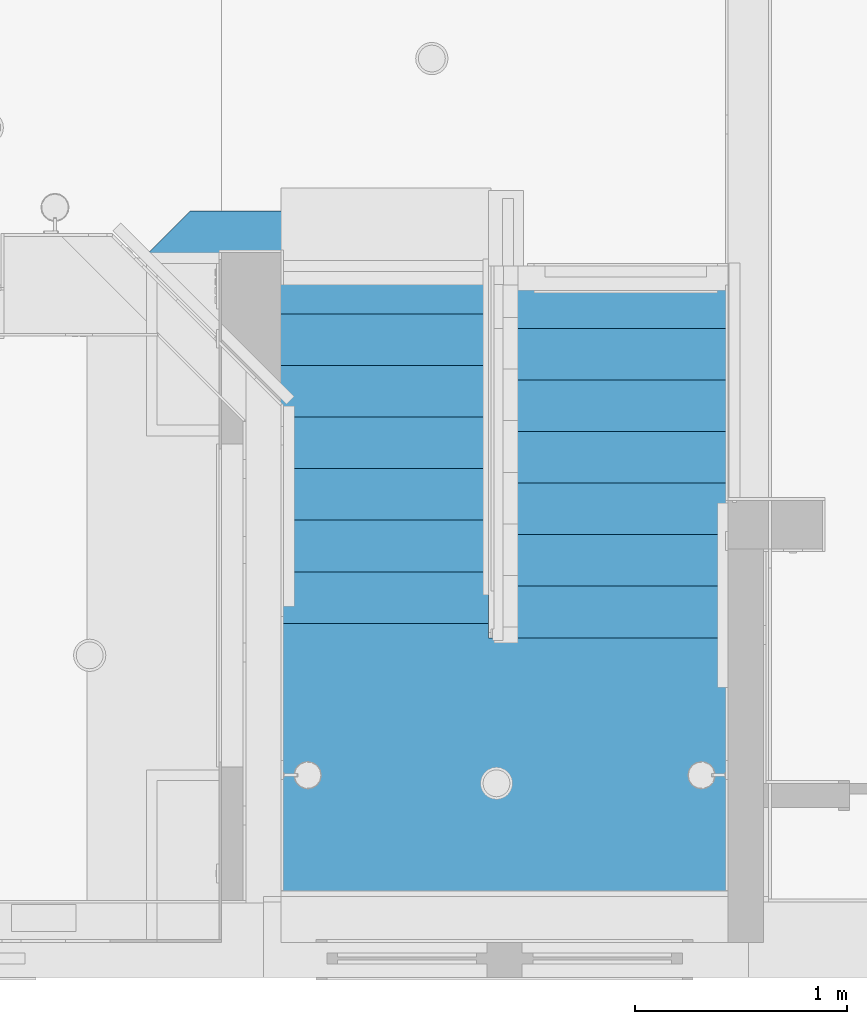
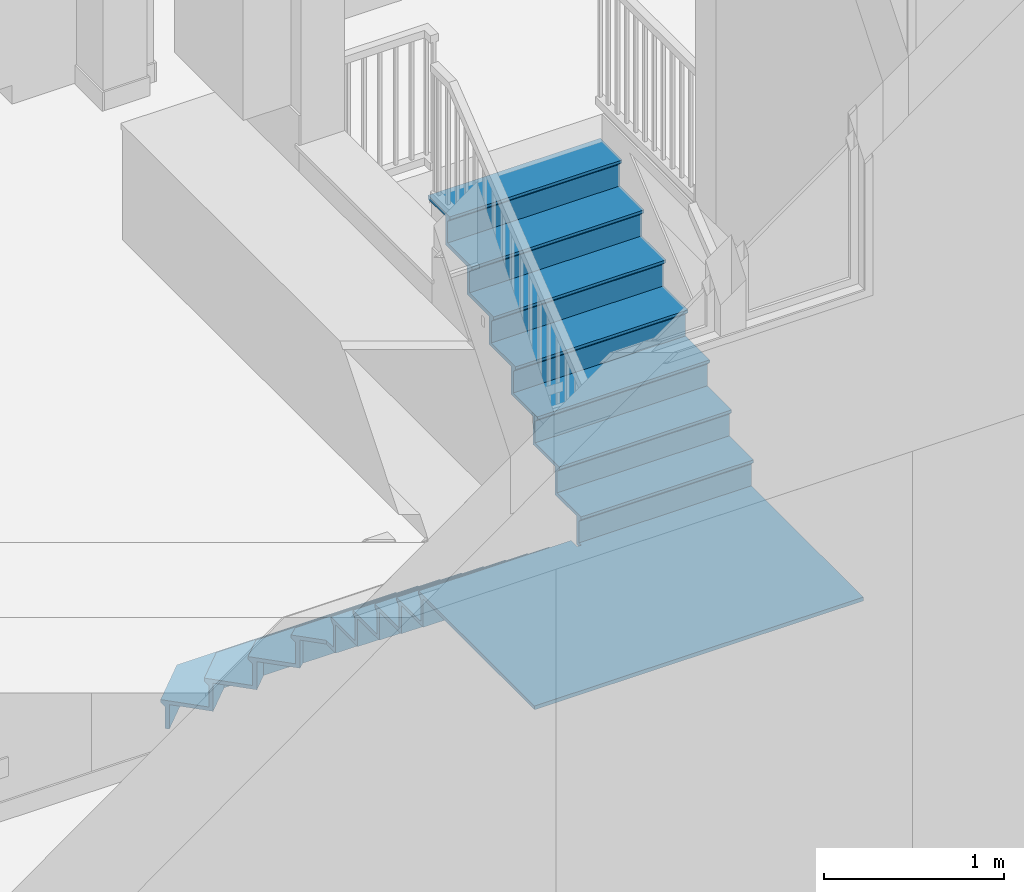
# One storey, part 33 of 81: 1 stair flight, 1 element without a shape of its own.
"""IFC2X3 building model written with IfcOpenShell, lengths in feet."""

from ifc_helpers import new_model, entity, si_unit, converted_unit, derived_unit, direction, frame, origin, place, context, subcontext, project, spatial, faceted_brep, material, type_object, element, aggregate, save


model = new_model("IFC2X3")

# Units and contexts
model_context = context("Model", 3, precision=0.0001, world=origin(), true_north=direction((6.12303176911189e-17, 1.0)))
body_context = subcontext(model_context, "Body", "Model", "MODEL_VIEW")
ifc_project = project(units=[converted_unit("LENGTHUNIT", "FOOT", entity("IfcRatioMeasure", 0.3048), si_unit("LENGTHUNIT", "METRE"), dimensions=[1, 0, 0, 0, 0, 0, 0]), converted_unit("AREAUNIT", "SQUARE FOOT", entity("IfcRatioMeasure", 0.09290304), si_unit("AREAUNIT", "SQUARE_METRE"), dimensions=[2, 0, 0, 0, 0, 0, 0]), converted_unit("VOLUMEUNIT", "CUBIC FOOT", entity("IfcRatioMeasure", 0.028316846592), si_unit("VOLUMEUNIT", "CUBIC_METRE"), dimensions=[3, 0, 0, 0, 0, 0, 0]), converted_unit("PLANEANGLEUNIT", "DEGREE", entity("IfcRatioMeasure", 0.0174532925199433), si_unit("PLANEANGLEUNIT", "RADIAN"), dimensions=[0, 0, 0, 0, 0, 0, 0]), si_unit("MASSUNIT", "GRAM", prefix="KILO"), derived_unit("MASSDENSITYUNIT", [(si_unit("MASSUNIT", "GRAM", prefix="KILO"), 1), (si_unit("LENGTHUNIT", "METRE"), -3)]), derived_unit("MOMENTOFINERTIAUNIT", [(si_unit("LENGTHUNIT", "METRE"), 4)]), si_unit("TIMEUNIT", "SECOND"), si_unit("FREQUENCYUNIT", "HERTZ"), si_unit("THERMODYNAMICTEMPERATUREUNIT", "DEGREE_CELSIUS"), derived_unit("THERMALTRANSMITTANCEUNIT", [(si_unit("MASSUNIT", "GRAM", prefix="KILO"), 1), (si_unit("THERMODYNAMICTEMPERATUREUNIT", "KELVIN"), -1), (si_unit("TIMEUNIT", "SECOND"), -3)]), derived_unit("VOLUMETRICFLOWRATEUNIT", [(si_unit("LENGTHUNIT", "METRE"), 3), (si_unit("TIMEUNIT", "SECOND"), -1)]), si_unit("ELECTRICCURRENTUNIT", "AMPERE"), si_unit("ELECTRICVOLTAGEUNIT", "VOLT"), si_unit("POWERUNIT", "WATT"), si_unit("FORCEUNIT", "NEWTON"), si_unit("ILLUMINANCEUNIT", "LUX"), si_unit("LUMINOUSFLUXUNIT", "LUMEN"), si_unit("LUMINOUSINTENSITYUNIT", "CANDELA"), derived_unit("USERDEFINED", [(si_unit("MASSUNIT", "GRAM", prefix="KILO"), -1), (si_unit("LENGTHUNIT", "METRE"), -2), (si_unit("TIMEUNIT", "SECOND"), 3), (si_unit("LUMINOUSFLUXUNIT", "LUMEN"), 1)]), derived_unit("LINEARVELOCITYUNIT", [(si_unit("LENGTHUNIT", "METRE"), 1), (si_unit("TIMEUNIT", "SECOND"), -1)]), si_unit("PRESSUREUNIT", "PASCAL"), derived_unit("USERDEFINED", [(si_unit("LENGTHUNIT", "METRE"), -2), (si_unit("MASSUNIT", "GRAM", prefix="KILO"), 1), (si_unit("TIMEUNIT", "SECOND"), -2)]), derived_unit("LINEARFORCEUNIT", [(si_unit("MASSUNIT", "GRAM", prefix="KILO"), 1), (si_unit("LENGTHUNIT", "METRE"), 1), (si_unit("TIMEUNIT", "SECOND"), -2), (si_unit("LENGTHUNIT", "METRE"), -1)]), derived_unit("PLANARFORCEUNIT", [(si_unit("MASSUNIT", "GRAM", prefix="KILO"), 1), (si_unit("LENGTHUNIT", "METRE"), 1), (si_unit("TIMEUNIT", "SECOND"), -2), (si_unit("LENGTHUNIT", "METRE"), -2)])], contexts=[model_context])

# Site, building, storey
site_placement = place(None, origin())
site = spatial("IfcSite", under=ifc_project, at=site_placement, Name="Default", CompositionType="ELEMENT")
building_placement = place(site_placement, origin())
building = spatial("IfcBuilding", under=site, at=building_placement, CompositionType="ELEMENT")
storey_placement = place(building_placement, origin())
storey = spatial("IfcBuildingStorey", under=building, at=storey_placement, Name="First floor", CompositionType="ELEMENT", Elevation=0.0)

# Stair, stair flight
stair_placement = place(storey_placement, origin())
stair = element("IfcStair", 1, at=stair_placement, inside=storey, Name="Assembled Stair:Stair", ObjectType="Assembled Stair:Stair_2018", ShapeType="NOTDEFINED")
ifc_material = material(Name="Default New Material")
stair_flight_type = type_object("IfcStairFlightType", Name="Non-Monolithic Run:1\" Tread 1\" Nosing 1/4\" Riser 2", PredefinedType="NOTDEFINED")
stair_flight_placement = place(stair_placement, frame((11.2479629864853, 1.24987579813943, 0.0)))
stair_flight = element("IfcStairFlight", 2, at=stair_flight_placement, type_object=stair_flight_type, material=ifc_material, Name="Assembled Stair:Stair:1540941 Run 1", ObjectType="Non-Monolithic Run:1\" Tread 1\" Nosing 1/4\" Riser 2", NumberOfRiser=16, NumberOfTreads=16, RiserHeight=0.627604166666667, TreadLength=1.0, context=body_context, shape_type="Brep", body=[
    faceted_brep([(0.810462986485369, 10.6042908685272, 0.565104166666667), (0.810462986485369, 10.6042908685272, 0.627604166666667), (5.41870364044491, 10.6042908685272, 0.627604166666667), (5.41870364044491, 10.6042908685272, 0.565104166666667), (0.844980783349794, 10.5209575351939, 0.481770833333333), (5.41870364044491, 10.5209575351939, 0.481770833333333), (5.41870364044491, 10.5209575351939, 0.544270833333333), (0.844980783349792, 10.5209575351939, 0.544270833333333), (0.0, 9.79382788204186, 0.627604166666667), (0.642550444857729, 9.15127743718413, 0.627604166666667), (1.21461149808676, 9.72333849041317, 0.627604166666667), (5.41870364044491, 9.72333849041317, 0.627604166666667), (5.41870364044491, 9.72333849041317, 0.544270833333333), (1.21461149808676, 9.72333849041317, 0.544270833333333), (0.642550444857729, 9.15127743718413, 0.544270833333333), (0.05892556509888, 9.73490231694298, 0.544270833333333), (0.0, 9.79382788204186, 0.565104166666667), (0.0589255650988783, 9.73490231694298, 0.481770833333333)], [[[0, 1, 2, 3]], [[4, 0, 3, 5]], [[4, 5, 6, 7]], [[2, 1, 8, 9, 10, 11]], [[6, 12, 13, 14, 15, 7]], [[2, 11, 12, 6, 5, 3]], [[9, 8, 16, 17, 15, 14]], [[11, 10, 13, 12]], [[16, 8, 1, 0]], [[17, 16, 0, 4]], [[17, 4, 7, 15]], [[10, 9, 14, 13]]]),
    faceted_brep([(5.41870364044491, 10.5209575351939, 0.544270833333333), (5.41870364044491, 10.4376242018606, 0.544270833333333), (5.41870364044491, 10.4376242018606, 0.0), (5.41870364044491, 10.5209575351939, 0.0), (0.844980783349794, 10.5209575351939, 0.0), (0.844980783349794, 10.5209575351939, 0.544270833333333), (0.879498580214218, 10.4376242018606, 0.0), (0.879498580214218, 10.4376242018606, 0.544270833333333), (0.0589255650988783, 9.73490231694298, 0.544270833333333), (0.0589255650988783, 9.73490231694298, 0.0), (0.117851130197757, 9.6759767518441, 0.0), (0.117851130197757, 9.6759767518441, 0.544270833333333)], [[[0, 1, 2, 3]], [[4, 5, 0, 3]], [[6, 4, 3, 2]], [[7, 6, 2, 1]], [[5, 7, 1, 0]], [[8, 9, 10, 11]], [[9, 8, 5, 4]], [[10, 9, 4, 6]], [[11, 10, 6, 7]], [[8, 11, 7, 5]]]),
    faceted_brep([(5.41870364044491, 9.72333849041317, 1.171875), (5.41870364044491, 9.64000515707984, 1.171875), (5.41870364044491, 9.64000515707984, 0.544270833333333), (5.41870364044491, 9.72333849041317, 0.544270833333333), (1.21461149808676, 9.72333849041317, 0.544270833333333), (1.21461149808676, 9.72333849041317, 1.171875), (1.24912929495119, 9.64000515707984, 0.544270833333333), (1.24912929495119, 9.64000515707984, 1.171875), (0.642550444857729, 9.15127743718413, 1.171875), (0.642550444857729, 9.15127743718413, 0.544270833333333), (0.701476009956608, 9.09235187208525, 0.544270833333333), (0.701476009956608, 9.09235187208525, 1.171875)], [[[0, 1, 2, 3]], [[4, 5, 0, 3]], [[6, 4, 3, 2]], [[7, 6, 2, 1]], [[5, 7, 1, 0]], [[8, 9, 10, 11]], [[9, 8, 5, 4]], [[10, 9, 4, 6]], [[11, 10, 6, 7]], [[8, 11, 7, 5]]]),
    faceted_brep([(5.41870364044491, 9.80667182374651, 1.25520833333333), (1.18009370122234, 9.80667182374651, 1.25520833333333), (0.583624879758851, 9.21020300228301, 1.25520833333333), (1.2261753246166, 8.56765255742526, 1.25520833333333), (1.58424221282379, 8.92571944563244, 1.25520833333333), (5.41870364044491, 8.92571944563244, 1.25520833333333), (5.41870364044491, 9.72333849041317, 1.171875), (5.41870364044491, 8.92571944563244, 1.171875), (1.58424221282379, 8.92571944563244, 1.171875), (1.2261753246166, 8.56765255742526, 1.171875), (0.642550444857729, 9.15127743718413, 1.171875), (1.21461149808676, 9.72333849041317, 1.171875), (5.41870364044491, 9.72333849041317, 1.109375), (5.41870364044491, 9.80667182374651, 1.19270833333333), (0.583624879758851, 9.21020300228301, 1.19270833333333), (0.642550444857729, 9.15127743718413, 1.109375), (1.18009370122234, 9.80667182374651, 1.19270833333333), (1.21461149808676, 9.72333849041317, 1.109375)], [[[0, 1, 2, 3, 4, 5]], [[6, 7, 8, 9, 10, 11]], [[0, 5, 7, 6, 12, 13]], [[3, 2, 14, 15, 10, 9]], [[5, 4, 8, 7]], [[16, 1, 0, 13]], [[17, 16, 13, 12]], [[17, 12, 6, 11]], [[4, 3, 9, 8]], [[14, 2, 1, 16]], [[15, 14, 16, 17]], [[15, 17, 11, 10]]]),
    faceted_brep([(2.2103692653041, 4.93762404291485, 4.9375), (2.2103692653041, 4.93762404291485, 4.30989583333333), (2.2103692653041, 4.85429070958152, 4.30989583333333), (2.2103692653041, 4.85429070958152, 4.9375), (5.41870364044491, 4.93762404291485, 4.9375), (5.41870364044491, 4.85429070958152, 4.9375), (5.41870364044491, 4.85429070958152, 4.30989583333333), (5.41870364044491, 4.93762404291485, 4.30989583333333)], [[[0, 1, 2, 3]], [[4, 5, 6, 7]], [[1, 0, 4, 7]], [[2, 1, 7, 6]], [[3, 2, 6, 5]], [[0, 3, 5, 4]]]),
    faceted_brep([(5.41870364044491, 5.02095737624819, 5.02083333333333), (2.2103692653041, 5.02095737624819, 5.02083333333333), (2.2103692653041, 4.14000517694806, 5.02083333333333), (5.41870364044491, 4.14000517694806, 5.02083333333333), (5.41870364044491, 4.93762404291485, 4.9375), (5.41870364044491, 4.14000517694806, 4.9375), (2.2103692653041, 4.14000517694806, 4.9375), (2.2103692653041, 4.93762404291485, 4.9375), (5.41870364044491, 4.93762404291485, 4.875), (5.41870364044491, 5.02095737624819, 4.95833333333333), (2.2103692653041, 5.02095737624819, 4.95833333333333), (2.2103692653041, 4.93762404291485, 4.875)], [[[0, 1, 2, 3]], [[4, 5, 6, 7]], [[0, 3, 5, 4, 8, 9]], [[2, 1, 10, 11, 7, 6]], [[3, 2, 6, 5]], [[10, 1, 0, 9]], [[11, 10, 9, 8]], [[11, 8, 4, 7]]]),
    faceted_brep([(2.2103692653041, 4.14000517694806, 5.56510416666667), (2.2103692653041, 4.14000517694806, 4.9375), (2.2103692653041, 4.05667184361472, 4.9375), (2.2103692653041, 4.05667184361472, 5.56510416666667), (5.41870364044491, 4.14000517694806, 5.56510416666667), (5.41870364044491, 4.05667184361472, 5.56510416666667), (5.41870364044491, 4.05667184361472, 4.9375), (5.41870364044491, 4.14000517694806, 4.9375)], [[[0, 1, 2, 3]], [[4, 5, 6, 7]], [[1, 0, 4, 7]], [[2, 1, 7, 6]], [[3, 2, 6, 5]], [[0, 3, 5, 4]]]),
    faceted_brep([(5.50203701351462, 4.08345769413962, 5.6484375), (5.50203701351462, 4.00012436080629, 5.6484375), (5.41870364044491, 4.00012436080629, 5.6484375), (5.41870364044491, 4.22333851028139, 5.6484375), (2.2103692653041, 4.22333851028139, 5.6484375), (2.2103692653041, 3.0956065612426, 5.6484375), (2.2103692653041, 0.0, 5.6484375), (6.59430575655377, 0.0, 5.6484375), (9.12703701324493, 0.0, 5.6484375), (9.12703701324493, 4.00012436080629, 5.6484375), (9.12703701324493, 4.08345769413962, 5.6484375), (5.50203701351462, 4.00012436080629, 5.56510416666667), (5.50203701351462, 4.08345769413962, 5.56510416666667), (9.12703701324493, 4.08345769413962, 5.56510416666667), (9.12703701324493, 4.00012436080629, 5.56510416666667), (9.12703701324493, 0.0, 5.56510416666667), (6.59430575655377, 0.0, 5.56510416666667), (2.2103692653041, 0.0, 5.56510416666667), (2.2103692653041, 3.0956065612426, 5.56510416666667), (2.2103692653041, 4.14000517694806, 5.56510416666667), (5.41870364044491, 4.14000517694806, 5.56510416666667), (5.41870364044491, 4.00012436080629, 5.56510416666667), (2.2103692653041, 4.22333851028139, 5.5859375), (2.2103692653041, 4.14000517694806, 5.50260416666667), (5.41870364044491, 4.22333851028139, 5.5859375), (5.41870364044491, 4.14000517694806, 5.50260416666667)], [[[0, 1, 2, 3, 4, 5, 6, 7, 8, 9, 10]], [[11, 12, 13, 14, 15, 16, 17, 18, 19, 20, 21]], [[1, 0, 12, 11]], [[2, 1, 11, 21]], [[5, 4, 22, 23, 19, 18]], [[6, 5, 18, 17]], [[7, 6, 17, 16]], [[8, 7, 16, 15]], [[0, 10, 13, 12]], [[23, 22, 24, 25]], [[23, 25, 20, 19]], [[3, 2, 21, 20, 25, 24]], [[9, 8, 15, 14]], [[10, 9, 14, 13]], [[22, 4, 3, 24]]]),
    faceted_brep([(9.12703701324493, 4.08345769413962, 6.19270833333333), (9.12703701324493, 4.08345769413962, 5.56510416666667), (9.12703701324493, 4.16679102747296, 5.56510416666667), (9.12703701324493, 4.16679102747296, 6.19270833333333), (5.50203701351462, 4.08345769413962, 6.19270833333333), (5.50203701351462, 4.16679102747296, 6.19270833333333), (5.50203701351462, 4.16679102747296, 5.56510416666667), (5.50203701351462, 4.08345769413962, 5.56510416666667)], [[[0, 1, 2, 3]], [[4, 5, 6, 7]], [[1, 0, 4, 7]], [[2, 1, 7, 6]], [[3, 2, 6, 5]], [[0, 3, 5, 4]]]),
    faceted_brep([(5.50203701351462, 4.00012436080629, 6.27604166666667), (9.12703701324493, 4.00012436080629, 6.27604166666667), (9.12703701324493, 4.88107656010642, 6.27604166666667), (5.50203701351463, 4.88107656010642, 6.27604166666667), (5.50203701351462, 4.08345769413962, 6.19270833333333), (5.50203701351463, 4.88107656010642, 6.19270833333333), (9.12703701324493, 4.88107656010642, 6.19270833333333), (9.12703701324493, 4.08345769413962, 6.19270833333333), (5.50203701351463, 4.08345769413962, 6.13020833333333), (5.50203701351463, 4.00012436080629, 6.21354166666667), (9.12703701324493, 4.00012436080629, 6.21354166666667), (9.12703701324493, 4.08345769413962, 6.13020833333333)], [[[0, 1, 2, 3]], [[4, 5, 6, 7]], [[0, 3, 5, 4, 8, 9]], [[2, 1, 10, 11, 7, 6]], [[3, 2, 6, 5]], [[10, 1, 0, 9]], [[11, 10, 9, 8]], [[11, 8, 4, 7]]]),
    faceted_brep([(9.12703701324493, 4.88107656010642, 6.8203125), (9.12703701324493, 4.88107656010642, 6.19270833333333), (9.12703701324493, 4.96440989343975, 6.19270833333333), (9.12703701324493, 4.96440989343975, 6.8203125), (5.50203701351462, 4.88107656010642, 6.8203125), (5.50203701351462, 4.96440989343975, 6.8203125), (5.50203701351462, 4.96440989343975, 6.19270833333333), (5.50203701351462, 4.88107656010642, 6.19270833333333)], [[[0, 1, 2, 3]], [[4, 5, 6, 7]], [[1, 0, 4, 7]], [[2, 1, 7, 6]], [[3, 2, 6, 5]], [[0, 3, 5, 4]]]),
    faceted_brep([(5.50203701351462, 4.79774322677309, 6.90364583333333), (9.12703701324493, 4.79774322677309, 6.90364583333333), (9.12703701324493, 5.67869542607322, 6.90364583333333), (5.50203701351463, 5.67869542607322, 6.90364583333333), (5.50203701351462, 4.88107656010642, 6.8203125), (5.50203701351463, 5.67869542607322, 6.8203125), (9.12703701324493, 5.67869542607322, 6.8203125), (9.12703701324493, 4.88107656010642, 6.8203125), (5.50203701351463, 4.88107656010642, 6.7578125), (5.50203701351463, 4.79774322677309, 6.84114583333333), (9.12703701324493, 4.79774322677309, 6.84114583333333), (9.12703701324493, 4.88107656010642, 6.7578125)], [[[0, 1, 2, 3]], [[4, 5, 6, 7]], [[0, 3, 5, 4, 8, 9]], [[2, 1, 10, 11, 7, 6]], [[3, 2, 6, 5]], [[10, 1, 0, 9]], [[11, 10, 9, 8]], [[11, 8, 4, 7]]]),
    faceted_brep([(5.41870364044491, 8.92571944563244, 1.79947916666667), (5.41870364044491, 8.84238611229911, 1.79947916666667), (5.41870364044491, 8.84238611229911, 1.171875), (5.41870364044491, 8.92571944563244, 1.171875), (1.58424221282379, 8.92571944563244, 1.171875), (1.58424221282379, 8.92571944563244, 1.79947916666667), (1.61876000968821, 8.84238611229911, 1.171875), (1.61876000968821, 8.84238611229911, 1.79947916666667), (1.2261753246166, 8.56765255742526, 1.79947916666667), (1.2261753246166, 8.56765255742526, 1.171875), (1.28510088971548, 8.50872699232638, 1.171875), (1.28510088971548, 8.50872699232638, 1.79947916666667)], [[[0, 1, 2, 3]], [[4, 5, 0, 3]], [[6, 4, 3, 2]], [[7, 6, 2, 1]], [[5, 7, 1, 0]], [[8, 9, 10, 11]], [[9, 8, 5, 4]], [[10, 9, 4, 6]], [[11, 10, 6, 7]], [[8, 11, 7, 5]]]),
    faceted_brep([(5.41870364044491, 9.00905277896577, 1.8828125), (1.54972441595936, 9.00905277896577, 1.8828125), (1.16724975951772, 8.62657812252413, 1.8828125), (1.79968488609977, 7.99414299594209, 1.8828125), (1.9503870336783, 8.12810046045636, 1.8828125), (5.41870364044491, 8.12810046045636, 1.8828125), (5.41870364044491, 8.92571944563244, 1.79947916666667), (5.41870364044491, 8.12810046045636, 1.79947916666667), (1.9503870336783, 8.12810046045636, 1.79947916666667), (1.79968488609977, 7.99414299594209, 1.79947916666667), (1.2261753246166, 8.56765255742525, 1.79947916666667), (1.58424221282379, 8.92571944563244, 1.79947916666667), (5.41870364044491, 8.92571944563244, 1.73697916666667), (5.41870364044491, 9.00905277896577, 1.8203125), (1.16724975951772, 8.62657812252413, 1.8203125), (1.2261753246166, 8.56765255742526, 1.73697916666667), (1.54972441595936, 9.00905277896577, 1.8203125), (1.58424221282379, 8.92571944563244, 1.73697916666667)], [[[0, 1, 2, 3, 4, 5]], [[6, 7, 8, 9, 10, 11]], [[0, 5, 7, 6, 12, 13]], [[3, 2, 14, 15, 10, 9]], [[5, 4, 8, 7]], [[16, 1, 0, 13]], [[17, 16, 13, 12]], [[17, 12, 6, 11]], [[4, 3, 9, 8]], [[14, 2, 1, 16]], [[15, 14, 16, 17]], [[15, 17, 11, 10]]]),
    faceted_brep([(9.12703701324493, 8.86917184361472, 9.95833333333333), (9.12703701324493, 8.86917184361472, 9.33072916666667), (9.12703701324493, 8.95250517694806, 9.33072916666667), (9.12703701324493, 8.95250517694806, 9.95833333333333), (5.50203701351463, 8.86917184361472, 9.95833333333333), (5.50203701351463, 8.95250517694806, 9.95833333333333), (5.50203701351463, 8.95250517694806, 9.33072916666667), (5.50203701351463, 8.86917184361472, 9.33072916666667)], [[[0, 1, 2, 3]], [[4, 5, 6, 7]], [[1, 0, 4, 7]], [[2, 1, 7, 6]], [[3, 2, 6, 5]], [[0, 3, 5, 4]]]),
    faceted_brep([(5.50203701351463, 8.78583851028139, 10.0416666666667), (9.12703701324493, 8.78583851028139, 10.0416666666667), (9.12703701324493, 9.58336455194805, 10.0416666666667), (5.50203701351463, 9.58336455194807, 10.0416666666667), (5.50203701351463, 8.86917184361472, 9.95833333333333), (5.50203701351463, 9.58336455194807, 9.95833333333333), (9.12703701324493, 9.58336455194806, 9.95833333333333), (9.12703701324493, 8.86917184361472, 9.95833333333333), (5.50203701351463, 8.86917184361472, 9.89583333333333), (5.50203701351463, 8.78583851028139, 9.97916666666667), (9.12703701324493, 8.78583851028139, 9.97916666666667), (9.12703701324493, 8.86917184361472, 9.89583333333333)], [[[0, 1, 2, 3]], [[4, 5, 6, 7]], [[0, 3, 5, 4, 8, 9]], [[2, 1, 10, 11, 7, 6]], [[3, 2, 6, 5]], [[10, 1, 0, 9]], [[11, 10, 9, 8]], [[11, 8, 4, 7]]]),
    faceted_brep([(1.79968488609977, 7.99414299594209, 2.42708333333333), (1.79968488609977, 7.99414299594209, 1.79947916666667), (1.85871231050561, 7.93511557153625, 1.79947916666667), (1.85871231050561, 7.93511557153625, 2.42708333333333), (1.9503870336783, 8.12810046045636, 2.42708333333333), (1.9503870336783, 8.12810046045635, 1.79947916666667), (1.98207031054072, 8.04476712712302, 1.79947916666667), (1.98207031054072, 8.04476712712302, 2.42708333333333), (5.41870364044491, 8.12810046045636, 2.42708333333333), (5.41870364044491, 8.04476712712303, 2.42708333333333), (5.41870364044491, 8.04476712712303, 1.79947916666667), (5.41870364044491, 8.12810046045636, 1.79947916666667)], [[[0, 1, 2, 3]], [[1, 0, 4, 5]], [[2, 1, 5, 6]], [[3, 2, 6, 7]], [[0, 3, 7, 4]], [[8, 9, 10, 11]], [[5, 4, 8, 11]], [[6, 5, 11, 10]], [[7, 6, 10, 9]], [[4, 7, 9, 8]]]),
    faceted_brep([(5.41870364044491, 8.21143379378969, 2.51041666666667), (1.91870375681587, 8.21143379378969, 2.51041666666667), (1.74065746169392, 8.05317042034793, 2.51041666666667), (2.2103692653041, 7.58345861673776, 2.51041666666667), (2.2103692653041, 7.33048135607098, 2.51041666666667), (5.41870364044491, 7.33048135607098, 2.51041666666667), (5.41870364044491, 8.12810046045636, 2.42708333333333), (5.41870364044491, 7.33048135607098, 2.42708333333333), (2.2103692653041, 7.33048135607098, 2.42708333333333), (2.2103692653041, 7.58345861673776, 2.42708333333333), (1.79968488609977, 7.99414299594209, 2.42708333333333), (1.9503870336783, 8.12810046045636, 2.42708333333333), (5.41870364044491, 8.12810046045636, 2.36458333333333), (5.41870364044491, 8.21143379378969, 2.44791666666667), (1.74065746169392, 8.05317042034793, 2.44791666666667), (1.79968488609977, 7.99414299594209, 2.36458333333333), (1.91870375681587, 8.21143379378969, 2.44791666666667), (1.9503870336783, 8.12810046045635, 2.36458333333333)], [[[0, 1, 2, 3, 4, 5]], [[6, 7, 8, 9, 10, 11]], [[0, 5, 7, 6, 12, 13]], [[3, 2, 14, 15, 10, 9]], [[4, 3, 9, 8]], [[5, 4, 8, 7]], [[14, 2, 1, 16]], [[15, 14, 16, 17]], [[15, 17, 11, 10]], [[16, 1, 0, 13]], [[17, 16, 13, 12]], [[17, 12, 6, 11]]]),
    faceted_brep([(2.2103692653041, 7.33048135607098, 3.0546875), (2.2103692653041, 7.33048135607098, 2.42708333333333), (2.2103692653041, 7.24714802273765, 2.42708333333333), (2.2103692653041, 7.24714802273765, 3.0546875), (5.41870364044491, 7.33048135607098, 3.0546875), (5.41870364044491, 7.24714802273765, 3.0546875), (5.41870364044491, 7.24714802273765, 2.42708333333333), (5.41870364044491, 7.33048135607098, 2.42708333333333)], [[[0, 1, 2, 3]], [[4, 5, 6, 7]], [[1, 0, 4, 7]], [[2, 1, 7, 6]], [[3, 2, 6, 5]], [[0, 3, 5, 4]]]),
    faceted_brep([(5.41870364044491, 7.41381468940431, 3.13802083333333), (2.2103692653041, 7.41381468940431, 3.13802083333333), (2.2103692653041, 6.5328622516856, 3.13802083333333), (5.41870364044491, 6.5328622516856, 3.13802083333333), (5.41870364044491, 7.33048135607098, 3.0546875), (5.41870364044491, 6.5328622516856, 3.0546875), (2.2103692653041, 6.5328622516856, 3.0546875), (2.2103692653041, 7.33048135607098, 3.0546875), (5.41870364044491, 7.33048135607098, 2.9921875), (5.41870364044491, 7.41381468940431, 3.07552083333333), (2.2103692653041, 7.41381468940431, 3.07552083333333), (2.2103692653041, 7.33048135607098, 2.9921875)], [[[0, 1, 2, 3]], [[4, 5, 6, 7]], [[0, 3, 5, 4, 8, 9]], [[2, 1, 10, 11, 7, 6]], [[3, 2, 6, 5]], [[10, 1, 0, 9]], [[11, 10, 9, 8]], [[11, 8, 4, 7]]]),
    faceted_brep([(2.2103692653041, 6.5328622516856, 3.68229166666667), (2.2103692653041, 6.5328622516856, 3.0546875), (2.2103692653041, 6.44952891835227, 3.0546875), (2.2103692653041, 6.44952891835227, 3.68229166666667), (5.41870364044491, 6.5328622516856, 3.68229166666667), (5.41870364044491, 6.44952891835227, 3.68229166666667), (5.41870364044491, 6.44952891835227, 3.0546875), (5.41870364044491, 6.5328622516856, 3.0546875)], [[[0, 1, 2, 3]], [[4, 5, 6, 7]], [[1, 0, 4, 7]], [[2, 1, 7, 6]], [[3, 2, 6, 5]], [[0, 3, 5, 4]]]),
    faceted_brep([(5.41870364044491, 6.61619558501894, 3.765625), (2.2103692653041, 6.61619558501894, 3.765625), (2.2103692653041, 5.73524338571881, 3.765625), (5.41870364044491, 5.73524338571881, 3.765625), (5.41870364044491, 6.5328622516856, 3.68229166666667), (5.41870364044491, 5.73524338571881, 3.68229166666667), (2.2103692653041, 5.73524338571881, 3.68229166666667), (2.2103692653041, 6.5328622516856, 3.68229166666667), (5.41870364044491, 6.5328622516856, 3.61979166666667), (5.41870364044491, 6.61619558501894, 3.703125), (2.2103692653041, 6.61619558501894, 3.703125), (2.2103692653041, 6.5328622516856, 3.61979166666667)], [[[0, 1, 2, 3]], [[4, 5, 6, 7]], [[0, 3, 5, 4, 8, 9]], [[2, 1, 10, 11, 7, 6]], [[3, 2, 6, 5]], [[10, 1, 0, 9]], [[11, 10, 9, 8]], [[11, 8, 4, 7]]]),
    faceted_brep([(2.2103692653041, 5.73524338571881, 4.30989583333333), (2.2103692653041, 5.73524338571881, 3.68229166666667), (2.2103692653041, 5.65191005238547, 3.68229166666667), (2.2103692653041, 5.65191005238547, 4.30989583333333), (5.41870364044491, 5.73524338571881, 4.30989583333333), (5.41870364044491, 5.65191005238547, 4.30989583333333), (5.41870364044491, 5.65191005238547, 3.68229166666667), (5.41870364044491, 5.73524338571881, 3.68229166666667)], [[[0, 1, 2, 3]], [[4, 5, 6, 7]], [[1, 0, 4, 7]], [[2, 1, 7, 6]], [[3, 2, 6, 5]], [[0, 3, 5, 4]]]),
    faceted_brep([(5.41870364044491, 5.81857671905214, 4.39322916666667), (2.2103692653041, 5.81857671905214, 4.39322916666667), (2.2103692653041, 4.93762404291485, 4.39322916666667), (5.41870364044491, 4.93762404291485, 4.39322916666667), (5.41870364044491, 5.73524338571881, 4.30989583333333), (5.41870364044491, 4.93762404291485, 4.30989583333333), (2.2103692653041, 4.93762404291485, 4.30989583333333), (2.2103692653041, 5.73524338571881, 4.30989583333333), (5.41870364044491, 5.73524338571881, 4.24739583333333), (5.41870364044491, 5.81857671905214, 4.33072916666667), (2.2103692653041, 5.81857671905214, 4.33072916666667), (2.2103692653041, 5.73524338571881, 4.24739583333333)], [[[0, 1, 2, 3]], [[4, 5, 6, 7]], [[0, 3, 5, 4, 8, 9]], [[2, 1, 10, 11, 7, 6]], [[3, 2, 6, 5]], [[10, 1, 0, 9]], [[11, 10, 9, 8]], [[11, 8, 4, 7]]]),
    faceted_brep([(9.12703701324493, 5.67869542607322, 7.44791666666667), (9.12703701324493, 5.67869542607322, 6.8203125), (9.12703701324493, 5.76202875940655, 6.8203125), (9.12703701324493, 5.76202875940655, 7.44791666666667), (5.50203701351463, 5.67869542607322, 7.44791666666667), (5.50203701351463, 5.76202875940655, 7.44791666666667), (5.50203701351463, 5.76202875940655, 6.8203125), (5.50203701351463, 5.67869542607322, 6.8203125)], [[[0, 1, 2, 3]], [[4, 5, 6, 7]], [[1, 0, 4, 7]], [[2, 1, 7, 6]], [[3, 2, 6, 5]], [[0, 3, 5, 4]]]),
    faceted_brep([(5.50203701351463, 5.59536209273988, 7.53125), (9.12703701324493, 5.59536209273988, 7.53125), (9.12703701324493, 6.47631476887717, 7.53125), (5.50203701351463, 6.47631476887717, 7.53125), (5.50203701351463, 5.67869542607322, 7.44791666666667), (5.50203701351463, 6.47631476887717, 7.44791666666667), (9.12703701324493, 6.47631476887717, 7.44791666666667), (9.12703701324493, 5.67869542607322, 7.44791666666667), (5.50203701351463, 5.67869542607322, 7.38541666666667), (5.50203701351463, 5.59536209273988, 7.46875), (9.12703701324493, 5.59536209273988, 7.46875), (9.12703701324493, 5.67869542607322, 7.38541666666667)], [[[0, 1, 2, 3]], [[4, 5, 6, 7]], [[0, 3, 5, 4, 8, 9]], [[2, 1, 10, 11, 7, 6]], [[3, 2, 6, 5]], [[10, 1, 0, 9]], [[11, 10, 9, 8]], [[11, 8, 4, 7]]]),
    faceted_brep([(9.12703701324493, 6.47631476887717, 8.07552083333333), (9.12703701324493, 6.47631476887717, 7.44791666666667), (9.12703701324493, 6.55964810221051, 7.44791666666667), (9.12703701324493, 6.55964810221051, 8.07552083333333), (5.50203701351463, 6.47631476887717, 8.07552083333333), (5.50203701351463, 6.55964810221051, 8.07552083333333), (5.50203701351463, 6.55964810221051, 7.44791666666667), (5.50203701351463, 6.47631476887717, 7.44791666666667)], [[[0, 1, 2, 3]], [[4, 5, 6, 7]], [[1, 0, 4, 7]], [[2, 1, 7, 6]], [[3, 2, 6, 5]], [[0, 3, 5, 4]]]),
    faceted_brep([(5.50203701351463, 6.39298143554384, 8.15885416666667), (9.12703701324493, 6.39298143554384, 8.15885416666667), (9.12703701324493, 7.27393363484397, 8.15885416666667), (5.50203701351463, 7.27393363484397, 8.15885416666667), (5.50203701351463, 6.47631476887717, 8.07552083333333), (5.50203701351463, 7.27393363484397, 8.07552083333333), (9.12703701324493, 7.27393363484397, 8.07552083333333), (9.12703701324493, 6.47631476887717, 8.07552083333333), (5.50203701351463, 6.47631476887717, 8.01302083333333), (5.50203701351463, 6.39298143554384, 8.09635416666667), (9.12703701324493, 6.39298143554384, 8.09635416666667), (9.12703701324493, 6.47631476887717, 8.01302083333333)], [[[0, 1, 2, 3]], [[4, 5, 6, 7]], [[0, 3, 5, 4, 8, 9]], [[2, 1, 10, 11, 7, 6]], [[3, 2, 6, 5]], [[10, 1, 0, 9]], [[11, 10, 9, 8]], [[11, 8, 4, 7]]]),
    faceted_brep([(9.12703701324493, 7.27393363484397, 8.703125), (9.12703701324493, 7.27393363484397, 8.07552083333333), (9.12703701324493, 7.3572669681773, 8.07552083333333), (9.12703701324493, 7.3572669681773, 8.703125), (5.50203701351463, 7.27393363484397, 8.703125), (5.50203701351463, 7.3572669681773, 8.703125), (5.50203701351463, 7.3572669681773, 8.07552083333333), (5.50203701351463, 7.27393363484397, 8.07552083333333)], [[[0, 1, 2, 3]], [[4, 5, 6, 7]], [[1, 0, 4, 7]], [[2, 1, 7, 6]], [[3, 2, 6, 5]], [[0, 3, 5, 4]]]),
    faceted_brep([(5.50203701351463, 7.19060030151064, 8.78645833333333), (9.12703701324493, 7.19060030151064, 8.78645833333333), (9.12703701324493, 8.07155273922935, 8.78645833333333), (5.50203701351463, 8.07155273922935, 8.78645833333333), (5.50203701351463, 7.27393363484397, 8.703125), (5.50203701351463, 8.07155273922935, 8.703125), (9.12703701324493, 8.07155273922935, 8.703125), (9.12703701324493, 7.27393363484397, 8.703125), (5.50203701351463, 7.27393363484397, 8.640625), (5.50203701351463, 7.19060030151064, 8.72395833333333), (9.12703701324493, 7.19060030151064, 8.72395833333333), (9.12703701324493, 7.27393363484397, 8.640625)], [[[0, 1, 2, 3]], [[4, 5, 6, 7]], [[0, 3, 5, 4, 8, 9]], [[2, 1, 10, 11, 7, 6]], [[3, 2, 6, 5]], [[10, 1, 0, 9]], [[11, 10, 9, 8]], [[11, 8, 4, 7]]]),
    faceted_brep([(9.12703701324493, 8.07155273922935, 9.33072916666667), (9.12703701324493, 8.07155273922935, 8.703125), (9.12703701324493, 8.15488607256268, 8.703125), (9.12703701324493, 8.15488607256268, 9.33072916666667), (5.50203701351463, 8.07155273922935, 9.33072916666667), (5.50203701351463, 8.15488607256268, 9.33072916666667), (5.50203701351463, 8.15488607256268, 8.703125), (5.50203701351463, 8.07155273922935, 8.703125)], [[[0, 1, 2, 3]], [[4, 5, 6, 7]], [[1, 0, 4, 7]], [[2, 1, 7, 6]], [[3, 2, 6, 5]], [[0, 3, 5, 4]]]),
    faceted_brep([(5.50203701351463, 7.98821940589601, 9.4140625), (9.12703701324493, 7.98821940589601, 9.4140625), (9.12703701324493, 8.86917184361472, 9.4140625), (5.50203701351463, 8.86917184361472, 9.4140625), (5.50203701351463, 8.07155273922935, 9.33072916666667), (5.50203701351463, 8.86917184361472, 9.33072916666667), (9.12703701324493, 8.86917184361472, 9.33072916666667), (9.12703701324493, 8.07155273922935, 9.33072916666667), (5.50203701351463, 8.07155273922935, 9.26822916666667), (5.50203701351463, 7.98821940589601, 9.3515625), (9.12703701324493, 7.98821940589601, 9.3515625), (9.12703701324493, 8.07155273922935, 9.26822916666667)], [[[0, 1, 2, 3]], [[4, 5, 6, 7]], [[0, 3, 5, 4, 8, 9]], [[2, 1, 10, 11, 7, 6]], [[3, 2, 6, 5]], [[10, 1, 0, 9]], [[11, 10, 9, 8]], [[11, 8, 4, 7]]]),
])
aggregate(stair, [stair_flight])

save(model, "model.ifc")
